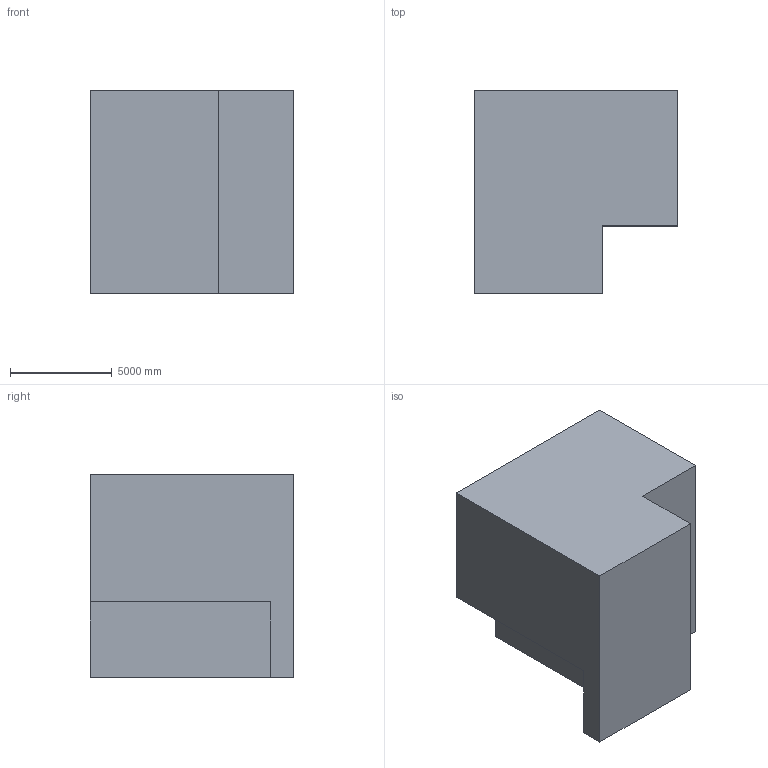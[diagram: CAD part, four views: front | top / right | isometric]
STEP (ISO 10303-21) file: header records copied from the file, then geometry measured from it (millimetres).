
FILE_DESCRIPTION (( 'STEP AP203' ), '1' );
FILE_NAME ('1305.STEP', '2022-08-18T13:39:54', ( 'user' ), ( '' ), 'SwSTEP 2.0', 'SolidWorks 2021', '' );
FILE_SCHEMA (( 'CONFIG_CONTROL_DESIGN' ));
Length unit declared in the file: centimetre
Products named in the file (1): 1305
Bounding box: 10000 x 10000 x 10000 mm (x, y, z)
Volume: 738724322869.4 mm3; surface area: 609531443 mm2
Topology: 1 solids, 1 shells, 19 faces, 45 edges, 30 vertices
Faces by surface type: plane 15, cylinder 4
Entity records: 624 total; most frequent: CARTESIAN_POINT 95, DIRECTION 93, ORIENTED_EDGE 90, EDGE_CURVE 45, VECTOR 37, LINE 37, VERTEX_POINT 30, AXIS2_PLACEMENT_3D 28
